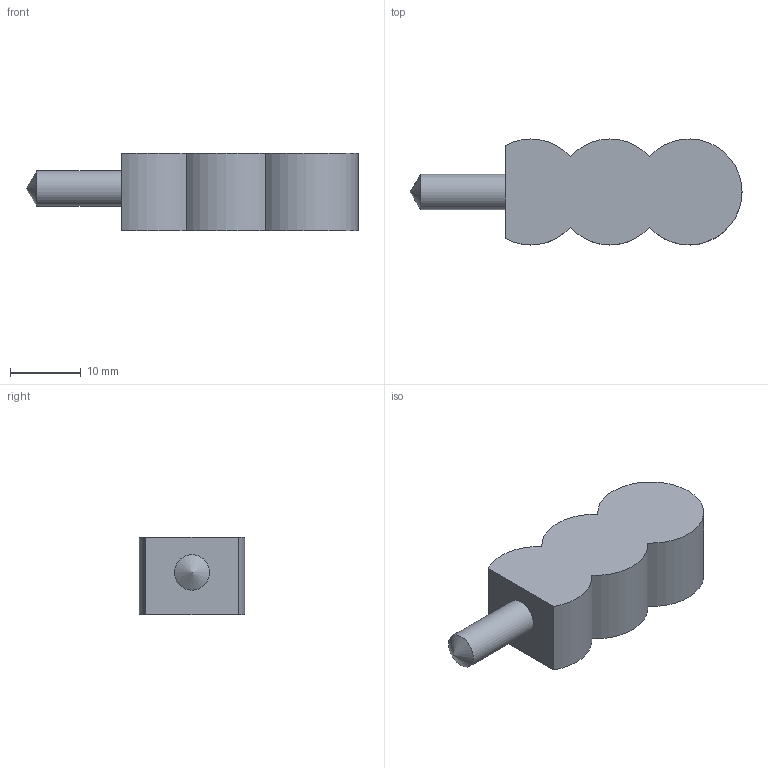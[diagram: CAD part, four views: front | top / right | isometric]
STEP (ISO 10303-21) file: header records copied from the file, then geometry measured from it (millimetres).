
FILE_DESCRIPTION(/* description */ (''),/* implementation_level */ '2;1');
FILE_NAME(/* name */ 'C:\Users\matthiask.LAMELLONET\Desktop\Cabineo_Bund_aufliegend_Variante_1-2_Gegenbohrung_D5x12mm.stp',/* time_stamp */ '2021-07-13T14:36:42+02:00',/* author */ ('matthiask'),/* organization */ (''),/* preprocessor_version */ 'ST-DEVELOPER v18',/* originating_system */ 'Autodesk Inventor 2020',/* authorisation */ '');
FILE_SCHEMA (('AUTOMOTIVE_DESIGN { 1 0 10303 214 3 1 1 }'));
Length unit declared in the file: millimetre
Products named in the file (3): Cabineo Bund aufliegend Variante 1-2_Gegenbohrung D5x12; Cabineo Bund aufliegend Variante 1-2; Cabineo Bohrung D5x12
Assembly tree (2 placements, depth 2):
  Cabineo Bund aufliegend Variante 1-2_Gegenbohrung D5x12
    Cabineo Bund aufliegend Variante 1-2
    Cabineo Bohrung D5x12
Bounding box: 47 x 15 x 11 mm (x, y, z)
Volume: 5103.5 mm3; surface area: 2157.3 mm2
Topology: 2 solids, 2 shells, 11 faces, 25 edges, 17 vertices
Faces by surface type: cylinder 6, plane 4, cone 1
Full cylindrical faces by diameter (mm): 5 x1
Entity records: 439 total; most frequent: DIRECTION 70, CARTESIAN_POINT 57, ORIENTED_EDGE 48, AXIS2_PLACEMENT_3D 30, EDGE_CURVE 24, VERTEX_POINT 17, CIRCLE 14, FACE_OUTER_BOUND 11
